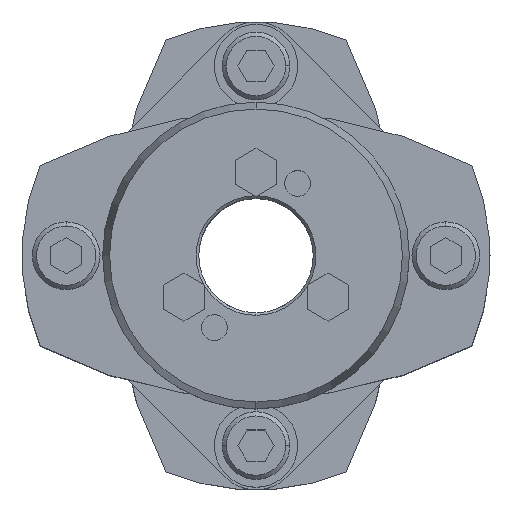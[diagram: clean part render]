
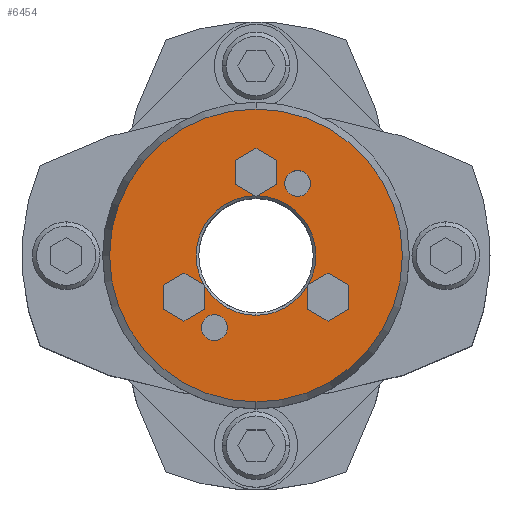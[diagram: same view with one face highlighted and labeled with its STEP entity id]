
A CAD part, top view. The second image highlights one B-rep face of the part: STEP entity #6454.
In plain terms, the highlighted planar face has unit normal (0, 0, 1).
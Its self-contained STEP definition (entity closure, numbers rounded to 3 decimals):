
#1694=CARTESIAN_POINT('',(0.,-11.5,52.0));
#1695=VERTEX_POINT('',#1694);
#1702=CARTESIAN_POINT('',(9.856,-5.925,52.0));
#1703=VERTEX_POINT('',#1702);
#1704=CARTESIAN_POINT('',(0.,0.,52.0));
#1705=DIRECTION('',(0.0,0.0,1.0));
#1706=DIRECTION('',(0.0,1.0,0.0));
#1707=AXIS2_PLACEMENT_3D('',#1704,#1705,#1706);
#1708=CIRCLE('',#1707,11.5);
#1709=EDGE_CURVE('',#1695,#1703,#1708,.T.);
#1711=CARTESIAN_POINT('',(10.059,-5.574,52.0));
#1712=VERTEX_POINT('',#1711);
#1720=CARTESIAN_POINT('',(0.203,11.498,52.0));
#1721=VERTEX_POINT('',#1720);
#1722=CARTESIAN_POINT('',(0.,0.,52.0));
#1723=DIRECTION('',(0.0,0.0,1.0));
#1724=DIRECTION('',(0.0,1.0,0.0));
#1725=AXIS2_PLACEMENT_3D('',#1722,#1723,#1724);
#1726=CIRCLE('',#1725,11.5);
#1727=EDGE_CURVE('',#1712,#1721,#1726,.T.);
#1892=CARTESIAN_POINT('',(0.,-28.16,52.0));
#1893=VERTEX_POINT('',#1892);
#1900=CARTESIAN_POINT('',(0.,28.16,52.0));
#1901=VERTEX_POINT('',#1900);
#1902=CARTESIAN_POINT('',(0.,0.,52.0));
#1903=DIRECTION('',(0.0,0.0,-1.0));
#1904=DIRECTION('',(0.0,-1.0,0.0));
#1905=AXIS2_PLACEMENT_3D('',#1902,#1903,#1904);
#1906=CIRCLE('',#1905,28.16);
#1907=EDGE_CURVE('',#1893,#1901,#1906,.T.);
#2150=CARTESIAN_POINT('',(8.,16.356,52.0));
#2151=VERTEX_POINT('',#2150);
#2167=CARTESIAN_POINT('',(8.,11.356,52.0));
#2168=VERTEX_POINT('',#2167);
#2175=CARTESIAN_POINT('',(8.,13.856,52.0));
#2176=DIRECTION('',(0.0,0.0,-1.0));
#2177=DIRECTION('',(0.0,1.0,0.0));
#2178=AXIS2_PLACEMENT_3D('',#2175,#2176,#2177);
#2179=CIRCLE('',#2178,2.5);
#2180=EDGE_CURVE('',#2151,#2168,#2179,.T.);
#2192=CARTESIAN_POINT('',(-8.,-11.356,52.0));
#2193=VERTEX_POINT('',#2192);
#2209=CARTESIAN_POINT('',(-8.,-16.356,52.0));
#2210=VERTEX_POINT('',#2209);
#2217=CARTESIAN_POINT('',(-8.,-13.856,52.0));
#2218=DIRECTION('',(0.0,0.0,-1.0));
#2219=DIRECTION('',(0.0,1.0,0.0));
#2220=AXIS2_PLACEMENT_3D('',#2217,#2218,#2219);
#2221=CIRCLE('',#2220,2.5);
#2222=EDGE_CURVE('',#2193,#2210,#2221,.T.);
#4880=CARTESIAN_POINT('',(13.856,-3.381,52.0));
#4881=VERTEX_POINT('',#4880);
#4888=CARTESIAN_POINT('',(10.059,-5.574,52.0));
#4889=DIRECTION('',(0.866,0.5,0.0));
#4890=VECTOR('',#4889,4.385);
#4891=LINE('',#4888,#4890);
#4892=EDGE_CURVE('',#1712,#4881,#4891,.T.);
#4924=CARTESIAN_POINT('',(17.856,-5.691,52.0));
#4925=VERTEX_POINT('',#4924);
#4932=CARTESIAN_POINT('',(13.856,-3.381,52.0));
#4933=DIRECTION('',(0.866,-0.5,0.0));
#4934=VECTOR('',#4933,4.619);
#4935=LINE('',#4932,#4934);
#4936=EDGE_CURVE('',#4881,#4925,#4935,.T.);
#4955=CARTESIAN_POINT('',(17.856,-10.309,52.0));
#4956=VERTEX_POINT('',#4955);
#4963=CARTESIAN_POINT('',(17.856,-5.691,52.0));
#4964=DIRECTION('',(0.0,-1.0,0.0));
#4965=VECTOR('',#4964,4.619);
#4966=LINE('',#4963,#4965);
#4967=EDGE_CURVE('',#4925,#4956,#4966,.T.);
#4986=CARTESIAN_POINT('',(13.856,-12.619,52.0));
#4987=VERTEX_POINT('',#4986);
#4994=CARTESIAN_POINT('',(17.856,-10.309,52.0));
#4995=DIRECTION('',(-0.866,-0.5,0.0));
#4996=VECTOR('',#4995,4.619);
#4997=LINE('',#4994,#4996);
#4998=EDGE_CURVE('',#4956,#4987,#4997,.T.);
#5017=CARTESIAN_POINT('',(9.856,-10.309,52.0));
#5018=VERTEX_POINT('',#5017);
#5025=CARTESIAN_POINT('',(13.856,-12.619,52.0));
#5026=DIRECTION('',(-0.866,0.5,0.0));
#5027=VECTOR('',#5026,4.619);
#5028=LINE('',#5025,#5027);
#5029=EDGE_CURVE('',#4987,#5018,#5028,.T.);
#5053=CARTESIAN_POINT('',(9.856,-10.309,52.0));
#5054=DIRECTION('',(0.0,1.0,0.0));
#5055=VECTOR('',#5054,4.385);
#5056=LINE('',#5053,#5055);
#5057=EDGE_CURVE('',#5018,#1703,#5056,.T.);
#5103=CARTESIAN_POINT('',(0.,20.619,52.0));
#5104=VERTEX_POINT('',#5103);
#5111=CARTESIAN_POINT('',(-4.,18.309,52.0));
#5112=VERTEX_POINT('',#5111);
#5113=CARTESIAN_POINT('',(-4.,18.309,52.0));
#5114=DIRECTION('',(0.866,0.5,0.0));
#5115=VECTOR('',#5114,4.619);
#5116=LINE('',#5113,#5115);
#5117=EDGE_CURVE('',#5112,#5104,#5116,.T.);
#5141=CARTESIAN_POINT('',(4.,18.309,52.0));
#5142=VERTEX_POINT('',#5141);
#5149=CARTESIAN_POINT('',(0.,20.619,52.0));
#5150=DIRECTION('',(0.866,-0.5,0.0));
#5151=VECTOR('',#5150,4.619);
#5152=LINE('',#5149,#5151);
#5153=EDGE_CURVE('',#5104,#5142,#5152,.T.);
#5172=CARTESIAN_POINT('',(4.,13.691,52.0));
#5173=VERTEX_POINT('',#5172);
#5180=CARTESIAN_POINT('',(4.,18.309,52.0));
#5181=DIRECTION('',(0.0,-1.0,0.0));
#5182=VECTOR('',#5181,4.619);
#5183=LINE('',#5180,#5182);
#5184=EDGE_CURVE('',#5142,#5173,#5183,.T.);
#5217=CARTESIAN_POINT('',(4.,13.691,52.0));
#5218=DIRECTION('',(-0.866,-0.5,0.0));
#5219=VECTOR('',#5218,4.385);
#5220=LINE('',#5217,#5219);
#5221=EDGE_CURVE('',#5173,#1721,#5220,.T.);
#5240=CARTESIAN_POINT('',(-4.,13.691,52.0));
#5241=VERTEX_POINT('',#5240);
#5248=CARTESIAN_POINT('',(-0.203,11.498,52.0));
#5249=VERTEX_POINT('',#5248);
#5250=CARTESIAN_POINT('',(-0.203,11.498,52.0));
#5251=DIRECTION('',(-0.866,0.5,0.0));
#5252=VECTOR('',#5251,4.385);
#5253=LINE('',#5250,#5252);
#5254=EDGE_CURVE('',#5249,#5241,#5253,.T.);
#5278=CARTESIAN_POINT('',(-4.,13.691,52.0));
#5279=DIRECTION('',(0.0,1.0,0.0));
#5280=VECTOR('',#5279,4.619);
#5281=LINE('',#5278,#5280);
#5282=EDGE_CURVE('',#5241,#5112,#5281,.T.);
#5335=CARTESIAN_POINT('',(-13.856,-3.381,52.0));
#5336=VERTEX_POINT('',#5335);
#5343=CARTESIAN_POINT('',(-17.856,-5.691,52.0));
#5344=VERTEX_POINT('',#5343);
#5345=CARTESIAN_POINT('',(-17.856,-5.691,52.0));
#5346=DIRECTION('',(0.866,0.5,0.0));
#5347=VECTOR('',#5346,4.619);
#5348=LINE('',#5345,#5347);
#5349=EDGE_CURVE('',#5344,#5336,#5348,.T.);
#5381=CARTESIAN_POINT('',(-10.059,-5.574,52.0));
#5382=VERTEX_POINT('',#5381);
#5389=CARTESIAN_POINT('',(-13.856,-3.381,52.0));
#5390=DIRECTION('',(0.866,-0.5,0.0));
#5391=VECTOR('',#5390,4.385);
#5392=LINE('',#5389,#5391);
#5393=EDGE_CURVE('',#5336,#5382,#5392,.T.);
#5412=CARTESIAN_POINT('',(-9.856,-10.309,52.0));
#5413=VERTEX_POINT('',#5412);
#5420=CARTESIAN_POINT('',(-9.856,-5.925,52.0));
#5421=VERTEX_POINT('',#5420);
#5422=CARTESIAN_POINT('',(-9.856,-5.925,52.0));
#5423=DIRECTION('',(0.0,-1.0,0.0));
#5424=VECTOR('',#5423,4.385);
#5425=LINE('',#5422,#5424);
#5426=EDGE_CURVE('',#5421,#5413,#5425,.T.);
#5451=CARTESIAN_POINT('',(-13.856,-12.619,52.0));
#5452=VERTEX_POINT('',#5451);
#5459=CARTESIAN_POINT('',(-9.856,-10.309,52.0));
#5460=DIRECTION('',(-0.866,-0.5,0.0));
#5461=VECTOR('',#5460,4.619);
#5462=LINE('',#5459,#5461);
#5463=EDGE_CURVE('',#5413,#5452,#5462,.T.);
#5482=CARTESIAN_POINT('',(-17.856,-10.309,52.0));
#5483=VERTEX_POINT('',#5482);
#5490=CARTESIAN_POINT('',(-13.856,-12.619,52.0));
#5491=DIRECTION('',(-0.866,0.5,0.0));
#5492=VECTOR('',#5491,4.619);
#5493=LINE('',#5490,#5492);
#5494=EDGE_CURVE('',#5452,#5483,#5493,.T.);
#5512=CARTESIAN_POINT('',(-17.856,-10.309,52.0));
#5513=DIRECTION('',(0.0,1.0,0.0));
#5514=VECTOR('',#5513,4.619);
#5515=LINE('',#5512,#5514);
#5516=EDGE_CURVE('',#5483,#5344,#5515,.T.);
#5559=CARTESIAN_POINT('',(-8.,-13.856,52.0));
#5560=DIRECTION('',(0.0,0.0,-1.0));
#5561=DIRECTION('',(0.0,1.0,0.0));
#5562=AXIS2_PLACEMENT_3D('',#5559,#5560,#5561);
#5563=CIRCLE('',#5562,2.5);
#5564=EDGE_CURVE('',#2210,#2193,#5563,.T.);
#5593=CARTESIAN_POINT('',(8.,13.856,52.0));
#5594=DIRECTION('',(0.0,0.0,-1.0));
#5595=DIRECTION('',(0.0,1.0,0.0));
#5596=AXIS2_PLACEMENT_3D('',#5593,#5594,#5595);
#5597=CIRCLE('',#5596,2.5);
#5598=EDGE_CURVE('',#2168,#2151,#5597,.T.);
#6391=CARTESIAN_POINT('',(0.,0.,52.0));
#6392=DIRECTION('',(0.0,0.0,-1.0));
#6393=DIRECTION('',(0.0,-1.0,0.0));
#6394=AXIS2_PLACEMENT_3D('',#6391,#6392,#6393);
#6395=CIRCLE('',#6394,28.16);
#6396=EDGE_CURVE('',#1901,#1893,#6395,.T.);
#6401=CARTESIAN_POINT('',(0.,2.682,52.0));
#6402=DIRECTION('',(0.0,0.0,1.0));
#6403=DIRECTION('',(0.0,1.0,0.0));
#6404=AXIS2_PLACEMENT_3D('',#6401,#6402,#6403);
#6405=PLANE('',#6404);
#6406=ORIENTED_EDGE('',*,*,#6396,.F.);
#6407=ORIENTED_EDGE('',*,*,#1907,.F.);
#6408=EDGE_LOOP('',(#6406,#6407));
#6409=FACE_OUTER_BOUND('',#6408,.T.);
#6410=ORIENTED_EDGE('',*,*,#5057,.T.);
#6411=ORIENTED_EDGE('',*,*,#1709,.F.);
#6412=CARTESIAN_POINT('',(0.,0.,52.0));
#6413=DIRECTION('',(0.0,0.0,1.0));
#6414=DIRECTION('',(0.0,1.0,0.0));
#6415=AXIS2_PLACEMENT_3D('',#6412,#6413,#6414);
#6416=CIRCLE('',#6415,11.5);
#6417=EDGE_CURVE('',#5421,#1695,#6416,.T.);
#6418=ORIENTED_EDGE('',*,*,#6417,.F.);
#6419=ORIENTED_EDGE('',*,*,#5426,.T.);
#6420=ORIENTED_EDGE('',*,*,#5463,.T.);
#6421=ORIENTED_EDGE('',*,*,#5494,.T.);
#6422=ORIENTED_EDGE('',*,*,#5516,.T.);
#6423=ORIENTED_EDGE('',*,*,#5349,.T.);
#6424=ORIENTED_EDGE('',*,*,#5393,.T.);
#6425=CARTESIAN_POINT('',(0.,0.,52.0));
#6426=DIRECTION('',(0.0,0.0,1.0));
#6427=DIRECTION('',(0.0,1.0,0.0));
#6428=AXIS2_PLACEMENT_3D('',#6425,#6426,#6427);
#6429=CIRCLE('',#6428,11.5);
#6430=EDGE_CURVE('',#5249,#5382,#6429,.T.);
#6431=ORIENTED_EDGE('',*,*,#6430,.F.);
#6432=ORIENTED_EDGE('',*,*,#5254,.T.);
#6433=ORIENTED_EDGE('',*,*,#5282,.T.);
#6434=ORIENTED_EDGE('',*,*,#5117,.T.);
#6435=ORIENTED_EDGE('',*,*,#5153,.T.);
#6436=ORIENTED_EDGE('',*,*,#5184,.T.);
#6437=ORIENTED_EDGE('',*,*,#5221,.T.);
#6438=ORIENTED_EDGE('',*,*,#1727,.F.);
#6439=ORIENTED_EDGE('',*,*,#4892,.T.);
#6440=ORIENTED_EDGE('',*,*,#4936,.T.);
#6441=ORIENTED_EDGE('',*,*,#4967,.T.);
#6442=ORIENTED_EDGE('',*,*,#4998,.T.);
#6443=ORIENTED_EDGE('',*,*,#5029,.T.);
#6444=EDGE_LOOP('',(#6410,#6411,#6418,#6419,#6420,#6421,#6422,#6423,#6424,#6431,#6432,#6433,#6434,#6435,#6436,#6437,#6438,#6439,#6440,#6441,#6442,#6443));
#6445=FACE_BOUND('',#6444,.T.);
#6446=ORIENTED_EDGE('',*,*,#2222,.T.);
#6447=ORIENTED_EDGE('',*,*,#5564,.T.);
#6448=EDGE_LOOP('',(#6446,#6447));
#6449=FACE_BOUND('',#6448,.T.);
#6450=ORIENTED_EDGE('',*,*,#2180,.T.);
#6451=ORIENTED_EDGE('',*,*,#5598,.T.);
#6452=EDGE_LOOP('',(#6450,#6451));
#6453=FACE_BOUND('',#6452,.T.);
#6454=ADVANCED_FACE('',(#6409,#6445,#6449,#6453),#6405,.T.);
